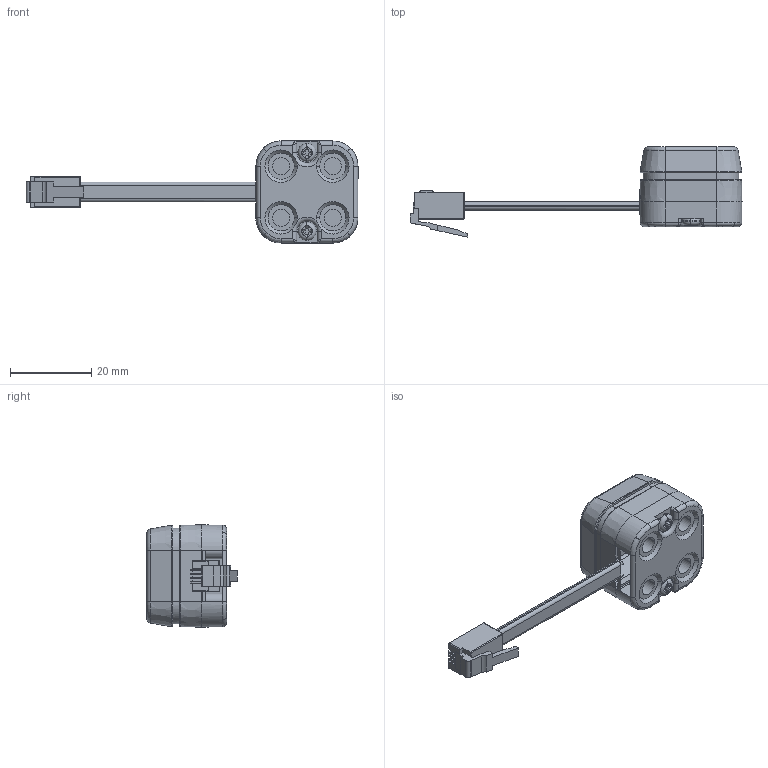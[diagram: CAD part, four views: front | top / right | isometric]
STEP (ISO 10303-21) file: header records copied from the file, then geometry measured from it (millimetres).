
FILE_DESCRIPTION (( 'STEP AP214' ), '1' );
FILE_NAME ('269-6696-000 FOR RELEASE.STEP', '2021-02-19T20:35:15', ( '' ), ( '' ), 'SwSTEP 2.0', 'SolidWorks 2019', '' );
FILE_SCHEMA (( 'AUTOMOTIVE_DESIGN' ));
Length unit declared in the file: millimetre
Products named in the file (1): 269-6696-000 FOR RELEASE
Bounding box: 81.61 x 22.21 x 25.1 mm (x, y, z)
Volume: 11780.3 mm3; surface area: 6058.5 mm2
Topology: 3 solids, 5 shells, 633 faces, 1757 edges, 1129 vertices
Faces by surface type: plane 315, cylinder 144, bspline 122, torus 26, cone 26
Entity records: 31169 total; most frequent: CARTESIAN_POINT 9095, ORIENTED_EDGE 3498, DIRECTION 2736, EDGE_CURVE 1749, VERTEX_POINT 1129, LINE 1044, VECTOR 1044, AXIS2_PLACEMENT_3D 846
